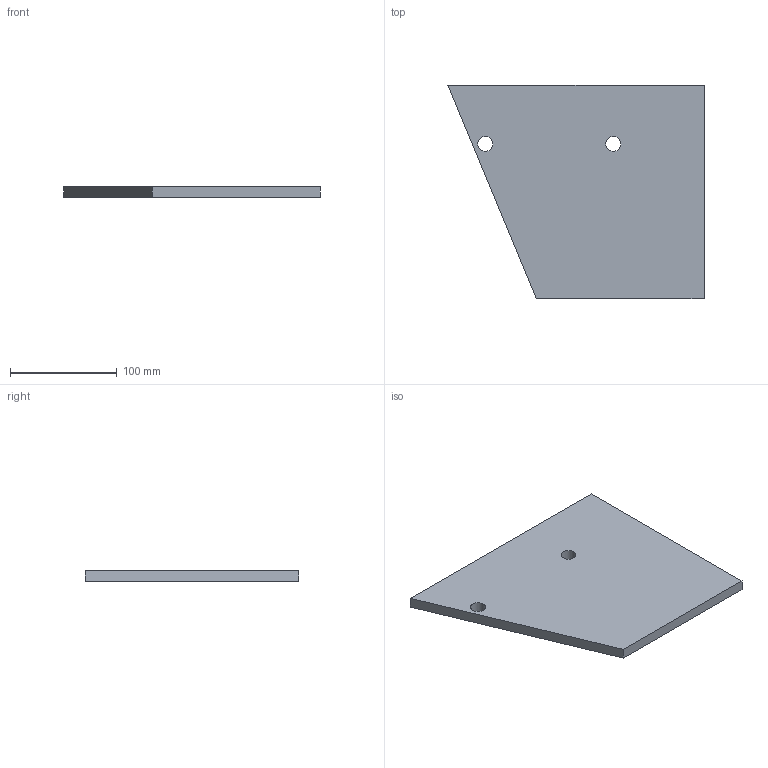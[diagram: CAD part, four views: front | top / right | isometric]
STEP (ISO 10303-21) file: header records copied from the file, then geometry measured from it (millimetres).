
FILE_DESCRIPTION(/* description */ (''),/* implementation_level */ '2;1');
FILE_NAME(/* name */ 'Pos104-Brede Strip 10x200-S235JRG2-2st',/* time_stamp */ '2024-08-06T11:42:42+02:00',/* author */ (''),/* organization */ (''),/* preprocessor_version */ 'ST-DEVELOPER v16.5',/* originating_system */ 'HiCAD 2024 2901.2 Build 361',/* authorisation */ '');
FILE_SCHEMA (('AUTOMOTIVE_DESIGN { 1 0 10303 214 1 1 1 1 }'));
Length unit declared in the file: millimetre
Products named in the file (1): Pos104-Brede Strip 10x200-S235JRG2-2st
Bounding box: 240 x 200 x 10 mm (x, y, z)
Volume: 394078.5 mm3; surface area: 87831.7 mm2
Topology: 1 solids, 1 shells, 8 faces, 20 edges, 14 vertices
Faces by surface type: plane 6, cylinder 2
Full cylindrical faces by diameter (mm): 14 x2
Entity records: 402 total; most frequent: DIRECTION 36, CARTESIAN_POINT 36, PRESENTATION_STYLE_ASSIGNMENT 33, COLOUR_RGB 33, DRAUGHTING_PRE_DEFINED_CURVE_FONT 32, CURVE_STYLE 32, OVER_RIDING_STYLED_ITEM 32, ORIENTED_EDGE 32
